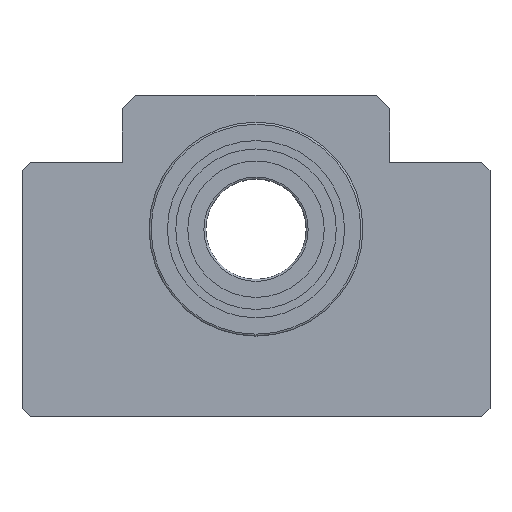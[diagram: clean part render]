
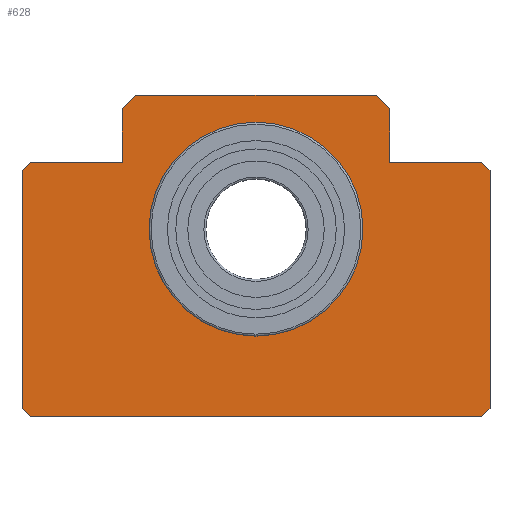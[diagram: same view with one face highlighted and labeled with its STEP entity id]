
A CAD part, top view. The second image highlights one B-rep face of the part: STEP entity #628.
In plain terms, the highlighted planar face has unit normal (0, 0, 1).
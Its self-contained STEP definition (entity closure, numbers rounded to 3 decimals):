
#52=CIRCLE('',#703,16.);
#152=ORIENTED_EDGE('',*,*,#268,.F.);
#153=ORIENTED_EDGE('',*,*,#221,.T.);
#154=ORIENTED_EDGE('',*,*,#225,.T.);
#155=ORIENTED_EDGE('',*,*,#230,.T.);
#156=ORIENTED_EDGE('',*,*,#233,.T.);
#157=ORIENTED_EDGE('',*,*,#236,.T.);
#158=ORIENTED_EDGE('',*,*,#239,.T.);
#159=ORIENTED_EDGE('',*,*,#243,.T.);
#160=ORIENTED_EDGE('',*,*,#246,.T.);
#161=ORIENTED_EDGE('',*,*,#249,.T.);
#162=ORIENTED_EDGE('',*,*,#252,.T.);
#163=ORIENTED_EDGE('',*,*,#255,.T.);
#164=ORIENTED_EDGE('',*,*,#258,.T.);
#165=ORIENTED_EDGE('',*,*,#262,.T.);
#166=ORIENTED_EDGE('',*,*,#265,.T.);
#221=EDGE_CURVE('',#293,#294,#351,.T.);
#225=EDGE_CURVE('',#294,#297,#355,.T.);
#230=EDGE_CURVE('',#297,#301,#358,.T.);
#233=EDGE_CURVE('',#301,#303,#361,.T.);
#236=EDGE_CURVE('',#303,#305,#364,.T.);
#239=EDGE_CURVE('',#305,#307,#367,.T.);
#243=EDGE_CURVE('',#307,#310,#370,.T.);
#246=EDGE_CURVE('',#310,#312,#373,.T.);
#249=EDGE_CURVE('',#312,#314,#376,.T.);
#252=EDGE_CURVE('',#314,#316,#379,.T.);
#255=EDGE_CURVE('',#316,#318,#382,.T.);
#258=EDGE_CURVE('',#318,#320,#385,.T.);
#262=EDGE_CURVE('',#320,#323,#388,.T.);
#265=EDGE_CURVE('',#323,#293,#391,.T.);
#268=EDGE_CURVE('',#326,#326,#52,.T.);
#293=VERTEX_POINT('',#954);
#294=VERTEX_POINT('',#955);
#297=VERTEX_POINT('',#963);
#301=VERTEX_POINT('',#973);
#303=VERTEX_POINT('',#979);
#305=VERTEX_POINT('',#985);
#307=VERTEX_POINT('',#991);
#310=VERTEX_POINT('',#999);
#312=VERTEX_POINT('',#1005);
#314=VERTEX_POINT('',#1011);
#316=VERTEX_POINT('',#1017);
#318=VERTEX_POINT('',#1023);
#320=VERTEX_POINT('',#1029);
#323=VERTEX_POINT('',#1037);
#326=VERTEX_POINT('',#1049);
#351=LINE('',#953,#393);
#355=LINE('',#962,#397);
#358=LINE('',#972,#400);
#361=LINE('',#978,#403);
#364=LINE('',#984,#406);
#367=LINE('',#990,#409);
#370=LINE('',#998,#412);
#373=LINE('',#1004,#415);
#376=LINE('',#1010,#418);
#379=LINE('',#1016,#421);
#382=LINE('',#1022,#424);
#385=LINE('',#1028,#427);
#388=LINE('',#1036,#430);
#391=LINE('',#1042,#433);
#393=VECTOR('',#761,1000.);
#397=VECTOR('',#767,1000.);
#400=VECTOR('',#776,1000.);
#403=VECTOR('',#781,1000.);
#406=VECTOR('',#786,1000.);
#409=VECTOR('',#791,1000.);
#412=VECTOR('',#798,1000.);
#415=VECTOR('',#803,1000.);
#418=VECTOR('',#808,1000.);
#421=VECTOR('',#813,1000.);
#424=VECTOR('',#818,1000.);
#427=VECTOR('',#823,1000.);
#430=VECTOR('',#830,1000.);
#433=VECTOR('',#835,1000.);
#455=EDGE_LOOP('',(#152));
#456=EDGE_LOOP('',(#153,#154,#155,#156,#157,#158,#159,#160,#161,#162,#163,
#164,#165,#166));
#531=FACE_BOUND('',#455,.T.);
#532=FACE_BOUND('',#456,.T.);
#602=PLANE('',#702);
#628=ADVANCED_FACE('',(#531,#532),#602,.T.);
#702=AXIS2_PLACEMENT_3D('',#1047,#841,#842);
#703=AXIS2_PLACEMENT_3D('',#1048,#843,#844);
#761=DIRECTION('',(0.,-1.,0.));
#767=DIRECTION('',(0.707,-0.707,0.));
#776=DIRECTION('',(1.,0.,0.));
#781=DIRECTION('',(0.707,0.707,0.));
#786=DIRECTION('',(0.,1.,0.));
#791=DIRECTION('',(-0.707,0.707,0.));
#798=DIRECTION('',(-1.,0.,0.));
#803=DIRECTION('',(0.,1.,0.));
#808=DIRECTION('',(-0.707,0.707,0.));
#813=DIRECTION('',(-1.,0.,0.));
#818=DIRECTION('',(-0.707,-0.707,0.));
#823=DIRECTION('',(0.,-1.,0.));
#830=DIRECTION('',(-1.,0.,0.));
#835=DIRECTION('',(-0.707,-0.707,0.));
#841=DIRECTION('',(0.,0.,1.));
#842=DIRECTION('',(1.,0.,0.));
#843=DIRECTION('',(0.,0.,1.));
#844=DIRECTION('',(1.,0.,0.));
#953=CARTESIAN_POINT('',(-35.,8.8,0.));
#954=CARTESIAN_POINT('',(-35.,8.8,0.));
#955=CARTESIAN_POINT('',(-35.,-26.8,0.));
#962=CARTESIAN_POINT('',(-35.,-26.8,0.));
#963=CARTESIAN_POINT('',(-33.8,-28.,0.));
#972=CARTESIAN_POINT('',(-33.8,-28.,0.));
#973=CARTESIAN_POINT('',(33.8,-28.,0.));
#978=CARTESIAN_POINT('',(33.8,-28.,0.));
#979=CARTESIAN_POINT('',(35.,-26.8,0.));
#984=CARTESIAN_POINT('',(35.,-26.8,0.));
#985=CARTESIAN_POINT('',(35.,8.8,0.));
#990=CARTESIAN_POINT('',(35.,8.8,0.));
#991=CARTESIAN_POINT('',(33.8,10.,0.));
#998=CARTESIAN_POINT('',(33.8,10.,0.));
#999=CARTESIAN_POINT('',(20.,10.,0.));
#1004=CARTESIAN_POINT('',(20.,10.,0.));
#1005=CARTESIAN_POINT('',(20.,18.,0.));
#1010=CARTESIAN_POINT('',(20.,18.,0.));
#1011=CARTESIAN_POINT('',(18.,20.,0.));
#1016=CARTESIAN_POINT('',(18.,20.,0.));
#1017=CARTESIAN_POINT('',(-18.,20.,0.));
#1022=CARTESIAN_POINT('',(-18.,20.,0.));
#1023=CARTESIAN_POINT('',(-20.,18.,0.));
#1028=CARTESIAN_POINT('',(-20.,18.,0.));
#1029=CARTESIAN_POINT('',(-20.,10.,0.));
#1036=CARTESIAN_POINT('',(-20.,10.,0.));
#1037=CARTESIAN_POINT('',(-33.8,10.,0.));
#1042=CARTESIAN_POINT('',(-33.8,10.,0.));
#1047=CARTESIAN_POINT('',(0.,0.,0.));
#1048=CARTESIAN_POINT('',(0.,0.,0.));
#1049=CARTESIAN_POINT('',(16.,0.,0.));
